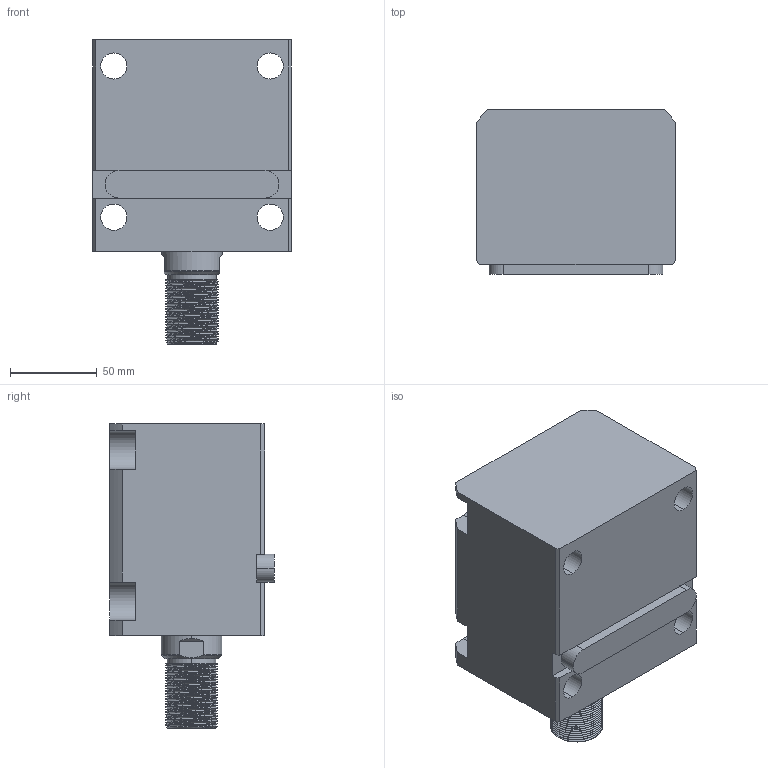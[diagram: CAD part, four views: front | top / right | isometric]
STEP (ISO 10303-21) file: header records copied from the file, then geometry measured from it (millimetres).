
FILE_DESCRIPTION (( 'STEP AP214' ), '1' );
FILE_NAME ('chtb-la63x55w_asm.STEP', '2018-05-17T03:05:57', ( 'Windows' ), ( 'Microsoft' ), 'SwSTEP 2.0', 'SolidWorks 2015', '' );
FILE_SCHEMA (( 'AUTOMOTIVE_DESIGN' ));
Length unit declared in the file: millimetre
Products named in the file (5): CHTB-LA63X55NBT; CHTB-LA63PJ; CHTB63X55WHSG; CHTB-63QG; chtb-la63x55w_asm
Assembly tree (4 placements, depth 2):
  chtb-la63x55w_asm
    CHTB-63QG
    CHTB63X55WHSG
    CHTB-LA63PJ
    CHTB-LA63X55NBT
Bounding box: 114 x 94.5 x 175 mm (x, y, z)
Volume: 1078047.4 mm3; surface area: 160691.3 mm2
Topology: 4 solids, 4 shells, 228 faces, 670 edges, 457 vertices
Faces by surface type: cylinder 147, plane 48, bspline 14, cone 13, torus 6
Entity records: 22769 total; most frequent: CARTESIAN_POINT 17126, ORIENTED_EDGE 1332, DIRECTION 940, EDGE_CURVE 666, VERTEX_POINT 457, AXIS2_PLACEMENT_3D 350, EDGE_LOOP 253, LINE 240
